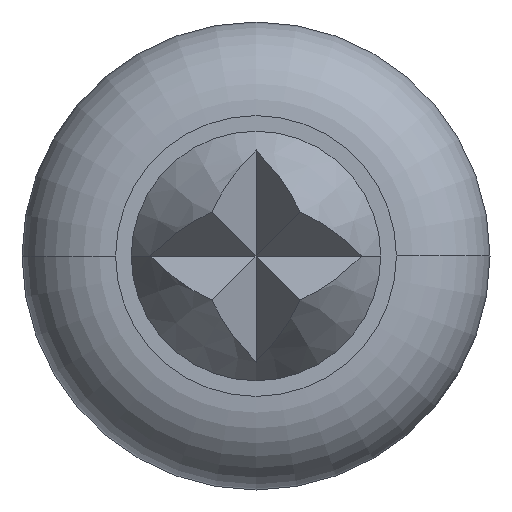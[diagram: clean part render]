
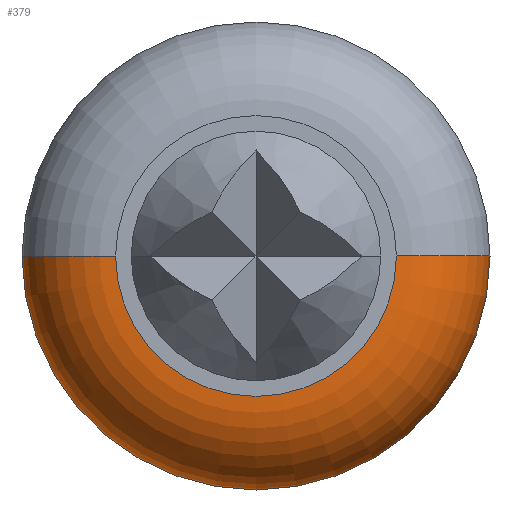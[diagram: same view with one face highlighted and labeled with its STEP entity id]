
A CAD part, front view. The second image highlights one B-rep face of the part: STEP entity #379.
In plain terms, the highlighted toroidal (fillet/blend) face has major radius 0.225 mm and minor radius 0.15 mm.
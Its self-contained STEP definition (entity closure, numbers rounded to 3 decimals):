
#1=CARTESIAN_POINT('',(0.,0.15,0.));
#2=DIRECTION('',(0.,1.,0.));
#3=DIRECTION('',(1.,0.,0.));
#4=AXIS2_PLACEMENT_3D('',#1,#2,#3);
#11=CARTESIAN_POINT('',(0.225,0.15,0.));
#12=DIRECTION('',(0.,0.,-1.));
#13=DIRECTION('',(1.,0.,0.));
#14=AXIS2_PLACEMENT_3D('',#11,#12,#13);
#16=CARTESIAN_POINT('',(-0.225,0.15,0.));
#17=DIRECTION('',(0.,0.,1.));
#18=DIRECTION('',(-1.,0.,0.));
#19=AXIS2_PLACEMENT_3D('',#16,#17,#18);
#105=CARTESIAN_POINT('',(0.,0.,0.));
#106=DIRECTION('',(0.,1.,0.));
#107=DIRECTION('',(1.,0.,0.));
#108=AXIS2_PLACEMENT_3D('',#105,#106,#107);
#333=CARTESIAN_POINT('',(0.375,0.15,0.));
#334=CARTESIAN_POINT('',(-0.375,0.15,0.));
#335=VERTEX_POINT('',#333);
#336=VERTEX_POINT('',#334);
#337=CARTESIAN_POINT('',(0.225,0.,0.));
#338=CARTESIAN_POINT('',(-0.225,0.,0.));
#339=VERTEX_POINT('',#337);
#340=VERTEX_POINT('',#338);
#365=CARTESIAN_POINT('',(0.,0.15,0.));
#366=DIRECTION('',(0.,1.,0.));
#367=DIRECTION('',(1.,0.,0.03));
#368=AXIS2_PLACEMENT_3D('',#365,#366,#367);
#369=TOROIDAL_SURFACE('',#368,0.225,0.15);
#370=ORIENTED_EDGE('',*,*,#354,.T.);
#372=ORIENTED_EDGE('',*,*,#371,.T.);
#374=ORIENTED_EDGE('',*,*,#373,.F.);
#376=ORIENTED_EDGE('',*,*,#375,.F.);
#377=EDGE_LOOP('',(#370,#372,#374,#376));
#378=FACE_OUTER_BOUND('',#377,.F.);
#5=CIRCLE('',#4,0.375);
#15=CIRCLE('',#14,0.15);
#20=CIRCLE('',#19,0.15);
#109=CIRCLE('',#108,0.225);
#354=EDGE_CURVE('',#335,#336,#5,.T.);
#371=EDGE_CURVE('',#336,#340,#20,.T.);
#373=EDGE_CURVE('',#339,#340,#109,.T.);
#375=EDGE_CURVE('',#335,#339,#15,.T.);
#379=ADVANCED_FACE('',(#378),#369,.T.);
